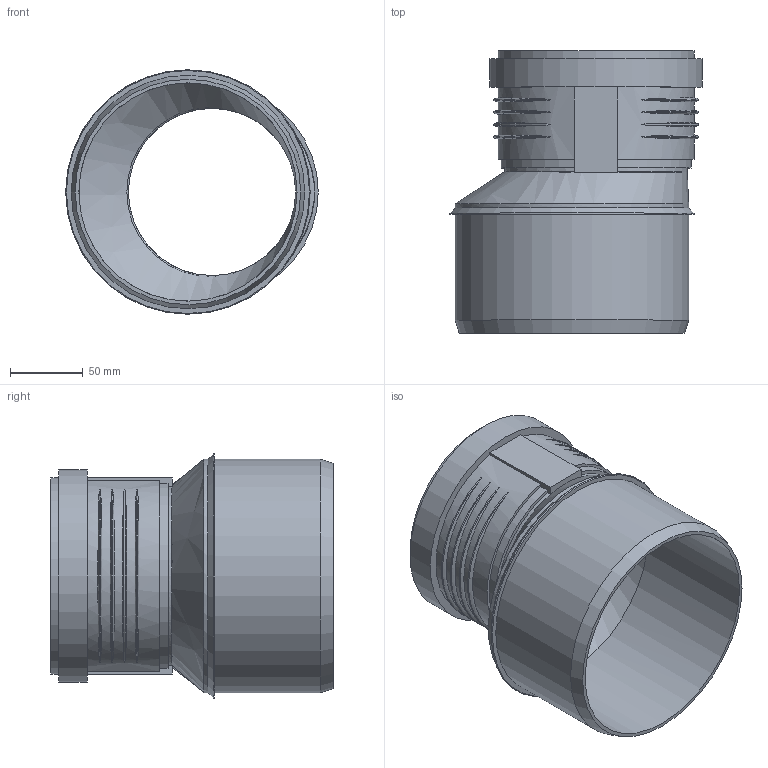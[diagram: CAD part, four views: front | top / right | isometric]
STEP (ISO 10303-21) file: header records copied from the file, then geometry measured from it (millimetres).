
FILE_DESCRIPTION(/* description */ (''),/* implementation_level */ '2;1');
FILE_NAME(/* name */ 'Z:\Geberit\Export\NewStep\390776.stp',/* time_stamp */ '2014-04-02T08:17:03+02:00',/* author */ ('ML'),/* organization */ (''),/* preprocessor_version */ 'ST-DEVELOPER v15.2',/* originating_system */ 'Autodesk Inventor 2014',/* authorisation */ '');
FILE_SCHEMA (('AUTOMOTIVE_DESIGN { 1 0 10303 214 3 1 1 }'));
Length unit declared in the file: millimetre
Products named in the file (3): 861621; 861625; 390776
Bounding box: 173.4 x 194 x 167.85 mm (x, y, z)
Volume: 455070.4 mm3; surface area: 208916.6 mm2
Topology: 2 solids, 2 shells, 68 faces, 162 edges, 112 vertices
Faces by surface type: torus 25, plane 20, cylinder 18, cone 3, bspline 2
Full cylindrical faces by diameter (mm): 114.8 x1, 117 x1, 125.2 x2, 126.4 x2, 134.6 x1, 137.7 x1, 145.9 x1, 149.85 x1, 160.25 x2
Entity records: 2726 total; most frequent: CARTESIAN_POINT 1117, DIRECTION 296, ORIENTED_EDGE 290, EDGE_CURVE 145, AXIS2_PLACEMENT_3D 130, VERTEX_POINT 111, EDGE_LOOP 102, STYLED_ITEM 68
